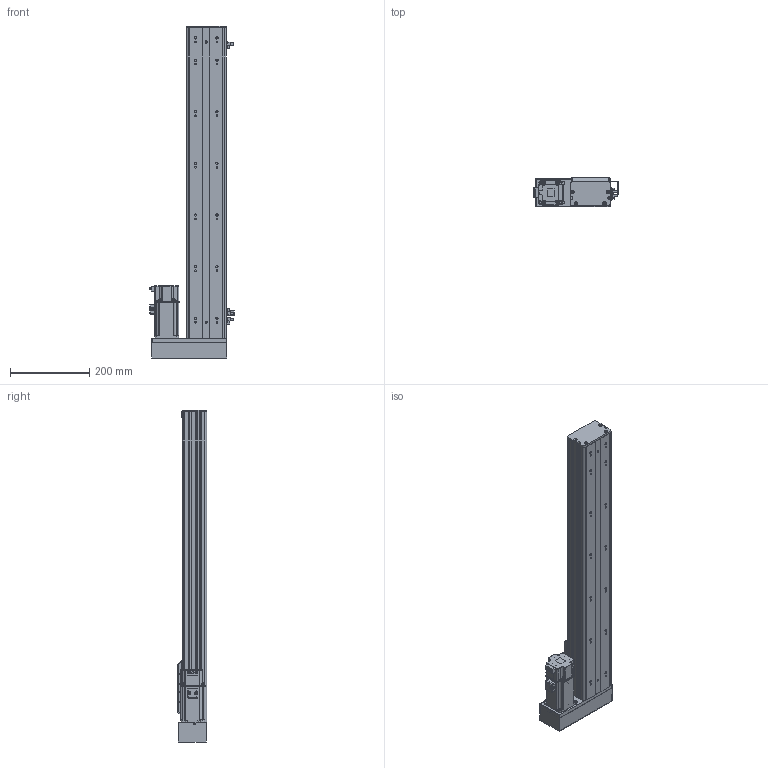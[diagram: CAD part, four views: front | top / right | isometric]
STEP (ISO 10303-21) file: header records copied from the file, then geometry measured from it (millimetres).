
FILE_DESCRIPTION (( 'STEP AP203' ), '1' );
FILE_NAME ('BOSW100-600-1610-1P-RM-M400W-O-S3（方程式2016）.step', '2020-10-10T07:18:47', ( '' ), ( '' ), 'SwSTEP 2.0', 'SolidWorks 2016', '' );
FILE_SCHEMA (( 'CONFIG_CONTROL_DESIGN' ));
Length unit declared in the file: millimetre
Products named in the file (14): 放大器内置U型微型光电传感器PM-L65; 新结构AIMSW-100-1P-宽&高轨共用-滑动座上组件; BOSW-100-1P-DM-宽轨-钢带-600客户图纸; BOSW&TW-100-詩湍揤沭(陔賦凳); BOSW-100-綴裔啣; BOSW-100-1P-DM-600諦誧芞; BOSW&TW-100-俋离覜茼え; BOSW100-600-1610-1P-RM-M400W-O-S3（方程式2016）; AIMS(W)-100-LM&RM-肮祭謫欶; 俋境嫖覜嘐隅啣; boS-100-LM&RM-三菱M400W马达板-宽轨; BOSW&TW-100-1P-賑雄釱欶; BOSW-100-1P-DM-宽轨-侧板-600客户图纸; S400W(SMA-L040)
Assembly tree (19 placements, depth 2):
  BOSW100-600-1610-1P-RM-M400W-O-S3（方程式2016）
    BOSW-100-1P-DM-600諦誧芞
    BOSW-100-綴裔啣
    新结构AIMSW-100-1P-宽&高轨共用-滑动座上组件
    S400W(SMA-L040)
    BOSW&TW-100-詩湍揤沭(陔賦凳)  x2
    BOSW&TW-100-1P-賑雄釱欶
    BOSW-100-1P-DM-宽轨-侧板-600客户图纸  x2
    BOSW-100-1P-DM-宽轨-钢带-600客户图纸
    AIMS(W)-100-LM&RM-肮祭謫欶
    boS-100-LM&RM-三菱M400W马达板-宽轨
    俋境嫖覜嘐隅啣  x3
    放大器内置U型微型光电传感器PM-L65  x3
    BOSW&TW-100-俋离覜茼え
Bounding box: 213.4 x 75 x 836 mm (x, y, z)
Volume: 1915065.4 mm3; surface area: 908511.4 mm2
Topology: 19 solids, 20 shells, 2535 faces, 6693 edges, 4271 vertices
Faces by surface type: plane 1243, cylinder 806, bspline 271, cone 167, torus 36, sphere 12
Entity records: 69624 total; most frequent: CARTESIAN_POINT 20854, ORIENTED_EDGE 9926, DIRECTION 9615, EDGE_CURVE 4963, AXIS2_PLACEMENT_3D 3411, VERTEX_POINT 3173, LINE 2793, VECTOR 2793
